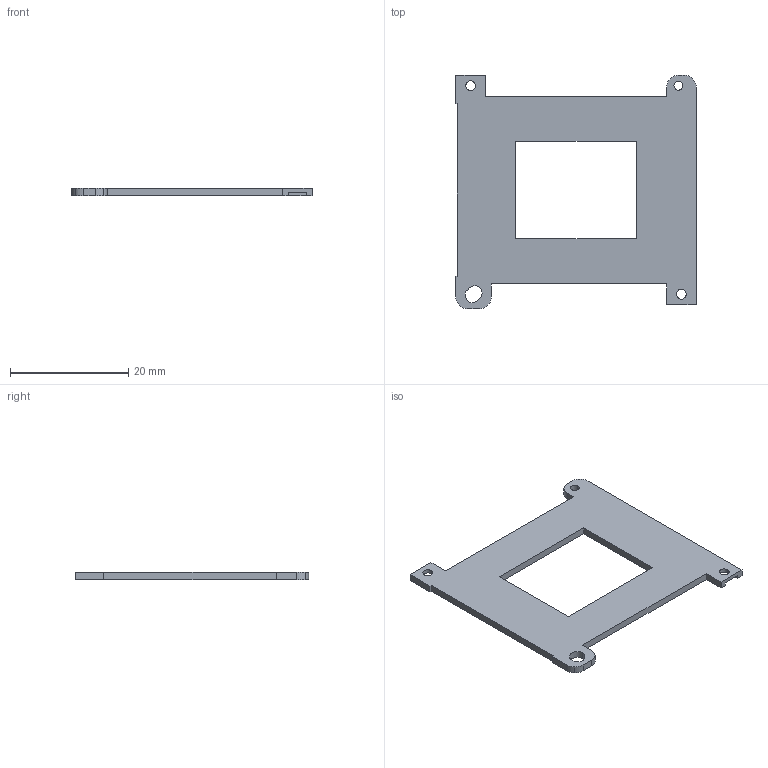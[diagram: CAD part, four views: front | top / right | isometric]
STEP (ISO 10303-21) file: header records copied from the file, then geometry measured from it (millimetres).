
FILE_DESCRIPTION((''),'2;1');
FILE_NAME('2501795D.stp','2001-03-23T16:59:04',(''),(''),'AutoCAD STEP 2000i','AutoCAD 2000i',', , ');
FILE_SCHEMA(('CONFIG_CONTROL_DESIGN'));
Length unit declared in the file: millimetre
Products named in the file (1): Product
Bounding box: 40.64 x 39.43 x 1.22 mm (x, y, z)
Volume: 1221.5 mm3; surface area: 2349.6 mm2
Topology: 1 solids, 1 shells, 50 faces, 144 edges, 96 vertices
Faces by surface type: plane 32, cylinder 18
Entity records: 1759 total; most frequent: CARTESIAN_POINT 291, ORIENTED_EDGE 288, DIRECTION 282, EDGE_CURVE 144, VECTOR 108, LINE 108, VERTEX_POINT 96, AXIS2_PLACEMENT_3D 87
